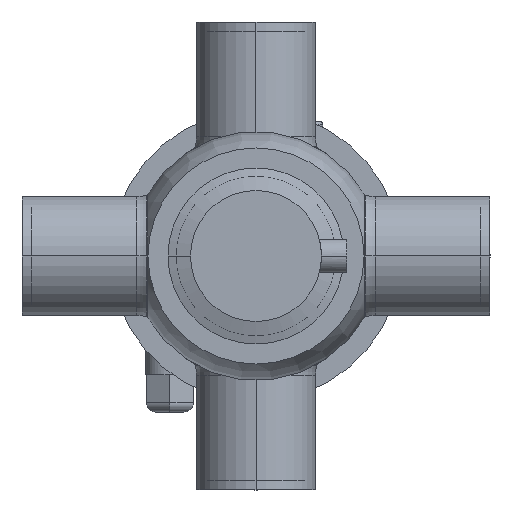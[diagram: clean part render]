
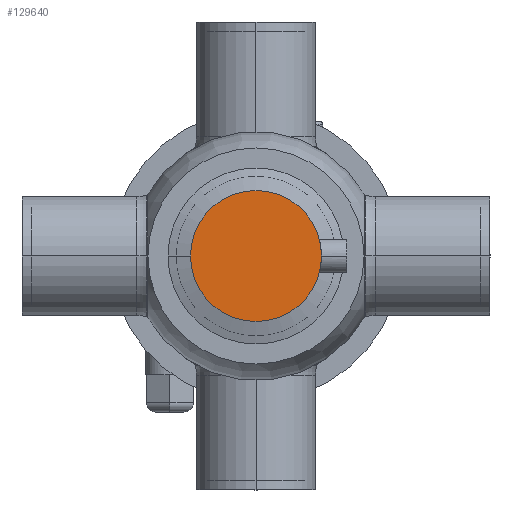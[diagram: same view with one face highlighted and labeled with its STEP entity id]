
A CAD part, front view. The second image highlights one B-rep face of the part: STEP entity #129640.
In plain terms, the highlighted planar face has unit normal (0, -1, 0).
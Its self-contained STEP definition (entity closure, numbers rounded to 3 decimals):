
#129300=CARTESIAN_POINT('',(35.,-92.85,0.)
);
#129310=VERTEX_POINT('',#129300);
#129340=CARTESIAN_POINT('',(0.,-92.85,0.));
#129350=DIRECTION('',(0.,-1.,0.));
#129360=DIRECTION('',(-1.,0.,0.));
#129370=AXIS2_PLACEMENT_3D('',#129340,#129350,#129360);
#129380=CIRCLE('',#129370,35.);
#129390=CARTESIAN_POINT('',(-35.,-92.85,0.));
#129400=VERTEX_POINT('',#129390);
#129410=EDGE_CURVE('',#129310,#129400,#129380,.T.);
#129540=CARTESIAN_POINT('',(0.,-92.85,0.));
#129550=DIRECTION('',(0.,-1.,0.));
#129560=DIRECTION('',(-1.,0.,0.));
#129570=AXIS2_PLACEMENT_3D('',#129540,#129550,#129560);
#129580=PLANE('',#129570);
#129590=EDGE_CURVE('',#129400,#129310,#129380,.T.);
#129600=ORIENTED_EDGE('',*,*,#129590,.T.);
#129610=ORIENTED_EDGE('',*,*,#129410,.T.);
#129620=EDGE_LOOP('',(#129610,#129600));
#129630=FACE_OUTER_BOUND('',#129620,.T.);
#129640=ADVANCED_FACE('',(#129630),#129580,.T.);
